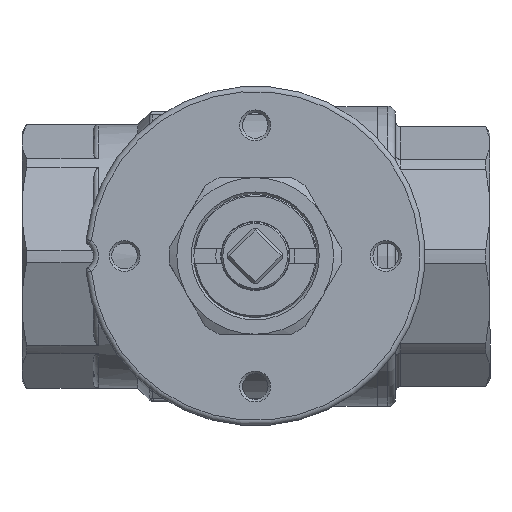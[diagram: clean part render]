
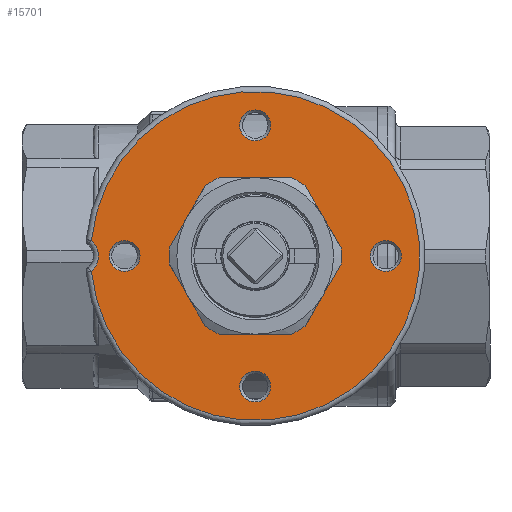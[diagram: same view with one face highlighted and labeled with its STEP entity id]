
A CAD part, top view. The second image highlights one B-rep face of the part: STEP entity #15701.
In plain terms, the highlighted planar face has unit normal (0, 0, 1) as drawn and (-1, 0, 0) by its records, which use the part's own axes.
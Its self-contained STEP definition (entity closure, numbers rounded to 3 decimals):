
#15617=CARTESIAN_POINT('',(-12.5,2.959,-25.0));
#15618=VERTEX_POINT('',#15617);
#15619=CARTESIAN_POINT('',(-12.5,0.,-25.0));
#15620=DIRECTION('',(-1.0,0.0,0.0));
#15621=DIRECTION('',(0.0,-1.0,0.0));
#15622=AXIS2_PLACEMENT_3D('',#15619,#15620,#15621);
#15623=CIRCLE('',#15622,2.959);
#15624=EDGE_CURVE('',#15618,#15618,#15623,.T.);
#15629=CARTESIAN_POINT('',(-12.5,16.25,0.0));
#15630=DIRECTION('',(-1.0,0.0,0.0));
#15631=DIRECTION('',(0.0,0.0,1.0));
#15632=AXIS2_PLACEMENT_3D('',#15629,#15630,#15631);
#15633=PLANE('',#15632);
#15634=CARTESIAN_POINT('',(-12.5,3.002,31.357));
#15635=VERTEX_POINT('',#15634);
#15636=CARTESIAN_POINT('',(-12.5,-3.002,31.357));
#15637=VERTEX_POINT('',#15636);
#15638=CARTESIAN_POINT('',(-12.5,0.,34.0));
#15639=DIRECTION('',(-1.0,0.0,0.0));
#15640=DIRECTION('',(0.0,0.0,-1.0));
#15641=AXIS2_PLACEMENT_3D('',#15638,#15639,#15640);
#15642=CIRCLE('',#15641,4.0);
#15643=EDGE_CURVE('',#15635,#15637,#15642,.T.);
#15644=ORIENTED_EDGE('',*,*,#15643,.F.);
#15645=CARTESIAN_POINT('',(-12.5,0.,0.0));
#15646=DIRECTION('',(1.0,0.0,0.0));
#15647=DIRECTION('',(0.0,-1.0,0.0));
#15648=AXIS2_PLACEMENT_3D('',#15645,#15646,#15647);
#15649=CIRCLE('',#15648,31.5);
#15650=EDGE_CURVE('',#15637,#15635,#15649,.T.);
#15651=ORIENTED_EDGE('',*,*,#15650,.F.);
#15652=EDGE_LOOP('',(#15644,#15651));
#15653=FACE_OUTER_BOUND('',#15652,.T.);
#15654=CARTESIAN_POINT('',(-12.5,27.958,0.));
#15655=VERTEX_POINT('',#15654);
#15656=CARTESIAN_POINT('',(-12.5,25.0,0.0));
#15657=DIRECTION('',(-1.0,0.0,0.0));
#15658=DIRECTION('',(0.0,-1.0,0.0));
#15659=AXIS2_PLACEMENT_3D('',#15656,#15657,#15658);
#15660=CIRCLE('',#15659,2.958);
#15661=EDGE_CURVE('',#15655,#15655,#15660,.T.);
#15662=ORIENTED_EDGE('',*,*,#15661,.F.);
#15663=EDGE_LOOP('',(#15662));
#15664=FACE_BOUND('',#15663,.T.);
#15665=CARTESIAN_POINT('',(-12.5,2.959,25.0));
#15666=VERTEX_POINT('',#15665);
#15667=CARTESIAN_POINT('',(-12.5,0.,25.0));
#15668=DIRECTION('',(-1.0,0.0,0.0));
#15669=DIRECTION('',(0.0,-1.0,0.0));
#15670=AXIS2_PLACEMENT_3D('',#15667,#15668,#15669);
#15671=CIRCLE('',#15670,2.959);
#15672=EDGE_CURVE('',#15666,#15666,#15671,.T.);
#15673=ORIENTED_EDGE('',*,*,#15672,.F.);
#15674=EDGE_LOOP('',(#15673));
#15675=FACE_BOUND('',#15674,.T.);
#15676=CARTESIAN_POINT('',(-12.5,-12.5,0.));
#15677=VERTEX_POINT('',#15676);
#15678=CARTESIAN_POINT('',(-12.5,0.,0.0));
#15679=DIRECTION('',(1.0,0.0,0.0));
#15680=DIRECTION('',(0.0,1.0,0.0));
#15681=AXIS2_PLACEMENT_3D('',#15678,#15679,#15680);
#15682=CIRCLE('',#15681,12.5);
#15683=EDGE_CURVE('',#15677,#15677,#15682,.T.);
#15684=ORIENTED_EDGE('',*,*,#15683,.T.);
#15685=EDGE_LOOP('',(#15684));
#15686=FACE_BOUND('',#15685,.T.);
#15687=CARTESIAN_POINT('',(-12.5,-22.042,0.));
#15688=VERTEX_POINT('',#15687);
#15689=CARTESIAN_POINT('',(-12.5,-25.0,0.0));
#15690=DIRECTION('',(-1.0,0.0,0.0));
#15691=DIRECTION('',(0.0,-1.0,0.0));
#15692=AXIS2_PLACEMENT_3D('',#15689,#15690,#15691);
#15693=CIRCLE('',#15692,2.958);
#15694=EDGE_CURVE('',#15688,#15688,#15693,.T.);
#15695=ORIENTED_EDGE('',*,*,#15694,.F.);
#15696=EDGE_LOOP('',(#15695));
#15697=FACE_BOUND('',#15696,.T.);
#15698=ORIENTED_EDGE('',*,*,#15624,.F.);
#15699=EDGE_LOOP('',(#15698));
#15700=FACE_BOUND('',#15699,.T.);
#15701=ADVANCED_FACE('',(#15653,#15664,#15675,#15686,#15697,#15700),#15633,.T.);
